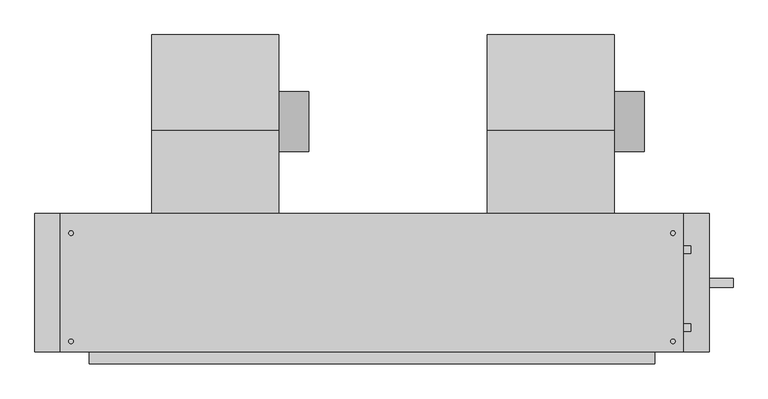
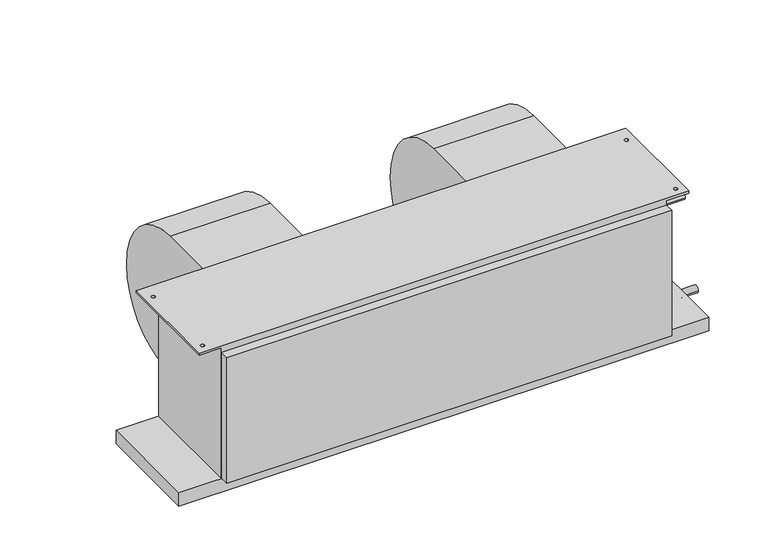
"""IFC4 building model written with IfcOpenShell, lengths in millimetres: proxy geometry, Concealed_High_Capacity_Horizontal_Fan_Coil_Unit_-_42DAA_-_CARRIER_-_2-Pipe_RH_2022 : Size 20 - 277v/60Hz/1Ph - 6 Row 14.0kW."""

import ifcopenshell
import ifcopenshell.guid

model = None  # the IFC model being written
_history = None  # IfcOwnerHistory: only IFC2X3 demands one
_inside = {}  # id of a spatial element -> (the spatial element, [elements in it])
_under = {}  # id of a project, library or spatial element -> (it, [spatial elements below it])
_declared = {}  # id of a project -> (the project, [libraries it declares])
_typed = {}  # id of a type object -> (the type object, [elements of that type])
_made_of = {}  # id of a material, layer set ... -> (it, [elements and type objects made of it])


def new_model(schema):
    """Start an empty IFC model of exactly this schema.

    Asked for "IFC4X3", IfcOpenShell would pick the latest addendum, in which some entities
    have other attributes; the version numbers below select the first issue.
    IFC2X3 requires an IfcOwnerHistory on every rooted entity: one is made here for all.
    """
    global model, _history
    if schema == "IFC4X3":
        model = ifcopenshell.file(schema_version=(4, 3, 0, 0))
    else:
        model = ifcopenshell.file(schema=schema)
    _inside.clear()
    _under.clear()
    _declared.clear()
    _typed.clear()
    _made_of.clear()
    _history = None
    if model.schema == "IFC2X3":
        org = make("IfcOrganization", Name="unknown")
        user = make(
            "IfcPersonAndOrganization",
            ThePerson=make("IfcPerson", FamilyName="unknown"),
            TheOrganization=org,
        )
        app = make(
            "IfcApplication",
            ApplicationDeveloper=org,
            Version="unknown",
            ApplicationFullName="unknown",
            ApplicationIdentifier="unknown",
        )
        _history = make(
            "IfcOwnerHistory",
            OwningUser=user,
            OwningApplication=app,
            ChangeAction="ADDED",
            CreationDate=0,
        )
    return model


def make(cls, **values):
    """One entity of the class cls with the attributes given. An attribute that is None is left unset."""
    return model.create_entity(
        cls, **{name: value for name, value in values.items() if value is not None}
    )


def rooted(cls, **values):
    """An entity with a GlobalId (a new one), such as an element, a storey or a relation."""
    return make(cls, GlobalId=ifcopenshell.guid.new(), OwnerHistory=_history, **values)


def si_unit(unit_type, name, prefix=None):
    """IfcSIUnit, for example si_unit("LENGTHUNIT", "METRE", prefix="MILLI")."""
    return make("IfcSIUnit", UnitType=unit_type, Prefix=prefix, Name=name)


def assignment(units):
    """IfcUnitAssignment: the units of a project."""
    return None if units is None else make("IfcUnitAssignment", Units=units)


def point(xyz):
    """IfcCartesianPoint."""
    return None if xyz is None else make("IfcCartesianPoint", Coordinates=xyz)


def direction(xyz):
    """IfcDirection."""
    return None if xyz is None else make("IfcDirection", DirectionRatios=xyz)


def frame(location, z_axis=None, x_axis=None):
    """IfcAxis2Placement3D, a coordinate frame: its origin and axes. An axis left out is left unset."""
    return make(
        "IfcAxis2Placement3D",
        Location=point(location),
        Axis=direction(z_axis),
        RefDirection=direction(x_axis),
    )


def frame_2d(location, x_axis=None):
    """IfcAxis2Placement2D, a coordinate frame in the plane: its origin and x axis."""
    return make(
        "IfcAxis2Placement2D", Location=point(location), RefDirection=direction(x_axis)
    )


def origin():
    """The frame at (0, 0, 0) with its axes left unset."""
    return frame((0.0, 0.0, 0.0))


def place(relative_to, where):
    """IfcLocalPlacement: puts the frame where relative to a parent placement (None: the world)."""
    return make(
        "IfcLocalPlacement", PlacementRelTo=relative_to, RelativePlacement=where
    )


def context(
    kind, dimensions, precision=None, world=None, true_north=None, identifier=None
):
    """IfcGeometricRepresentationContext, for example the 3D "Model" context."""
    return make(
        "IfcGeometricRepresentationContext",
        ContextIdentifier=identifier,
        ContextType=kind,
        CoordinateSpaceDimension=dimensions,
        Precision=precision,
        WorldCoordinateSystem=world,
        TrueNorth=true_north,
    )


def project(units=None, contexts=None):
    """IfcProject with its units and contexts."""
    return rooted(
        "IfcProject",
        Name="project",
        RepresentationContexts=contexts,
        UnitsInContext=assignment(units),
    )


def spatial(cls, under=None, at=None, **own):
    """A site, building, storey or space (cls), placed at a placement, below another one or the project."""
    s = rooted(cls, ObjectPlacement=at, **own)
    if under is not None:
        _under.setdefault(under.id(), (under, []))[1].append(s)
    return s


def polyline(points):
    """IfcPolyline through the points."""
    return make("IfcPolyline", Points=[point(p) for p in points])


def circle_curve(where, radius):
    """IfcCircle in the frame where."""
    return make("IfcCircle", Position=where, Radius=radius)


def trimmed(basis, trim1, trim2, sense, master):
    """IfcTrimmedCurve: the piece of a basis curve between two trims."""
    return make(
        "IfcTrimmedCurve",
        BasisCurve=basis,
        Trim1=trim1,
        Trim2=trim2,
        SenseAgreement=sense,
        MasterRepresentation=master,
    )


def segment(curve, same_sense, transition):
    """IfcCompositeCurveSegment."""
    return make(
        "IfcCompositeCurveSegment",
        Transition=transition,
        SameSense=same_sense,
        ParentCurve=curve,
    )


def composite_curve(segments, self_intersect=None):
    """IfcCompositeCurve: segments joined end to end."""
    return make("IfcCompositeCurve", Segments=segments, SelfIntersect=self_intersect)


def outline(outer, holes=None, kind="AREA"):
    """IfcArbitraryClosedProfileDef: a profile drawn as a closed curve; with holes, ...WithVoids."""
    if holes is None:
        return make("IfcArbitraryClosedProfileDef", ProfileType=kind, OuterCurve=outer)
    return make(
        "IfcArbitraryProfileDefWithVoids",
        ProfileType=kind,
        OuterCurve=outer,
        InnerCurves=holes,
    )


def extrude(swept, where, along, depth):
    """IfcExtrudedAreaSolid: the profile swept, set in the frame where, extruded along a direction by depth."""
    return make(
        "IfcExtrudedAreaSolid",
        SweptArea=swept,
        Position=where,
        ExtrudedDirection=direction(along),
        Depth=depth,
    )


def shape(context_of_items, identifier, shape_type, items):
    """IfcShapeRepresentation: the items that make up one representation, for example the "Body"."""
    return make(
        "IfcShapeRepresentation",
        ContextOfItems=context_of_items,
        RepresentationIdentifier=identifier,
        RepresentationType=shape_type,
        Items=items,
    )


def source(mapping_origin, context_of_items, identifier, shape_type, items):
    """IfcRepresentationMap: a shape defined once, which mapped items show again and again."""
    return make(
        "IfcRepresentationMap",
        MappingOrigin=mapping_origin,
        MappedRepresentation=shape(context_of_items, identifier, shape_type, items),
    )


def transform(
    local_origin,
    x_axis=None,
    y_axis=None,
    z_axis=None,
    scale=None,
    scale2=None,
    scale3=None,
    uniform=True,
):
    """IfcCartesianTransformationOperator3D, or its non-uniform kind. x_axis, y_axis, z_axis: its Axis1, 2, 3."""
    if uniform:
        return make(
            "IfcCartesianTransformationOperator3D",
            Axis1=direction(x_axis),
            Axis2=direction(y_axis),
            LocalOrigin=point(local_origin),
            Scale=scale,
            Axis3=direction(z_axis),
        )
    return make(
        "IfcCartesianTransformationOperator3DnonUniform",
        Axis1=direction(x_axis),
        Axis2=direction(y_axis),
        LocalOrigin=point(local_origin),
        Scale=scale,
        Axis3=direction(z_axis),
        Scale2=scale2,
        Scale3=scale3,
    )


def mapped(mapping_source, mapping_target):
    """IfcMappedItem: shows the shape of a source again, moved by a transform."""
    return make(
        "IfcMappedItem", MappingSource=mapping_source, MappingTarget=mapping_target
    )


def made_of(thing, what):
    """Note that an element or type object is made of a material, layer set ...; save() writes the relation."""
    if what is not None:
        _made_of.setdefault(what.id(), (what, []))[1].append(thing)
    return thing


def element(
    cls,
    number,
    at=None,
    inside=None,
    cuts=None,
    type_object=None,
    material=None,
    context=None,
    identifier="Body",
    shape_type=None,
    held_by="IfcProductDefinitionShape",
    body=None,
    shapes=None,
    **own,
):
    """One element of the class cls, such as IfcWall. Its Tag is "e" and its number.

    at: its placement. inside: the storey or other place that contains it. cuts: it is an
    opening in that element (IfcRelVoidsElement). A single representation is given by context,
    identifier, shape_type and body (its items); several are given by shapes. held_by: the class
    of the entity that holds the representations. save() writes the other relations.
    """
    e = rooted(cls, Tag="e%d" % number, ObjectPlacement=at, **own)
    if body is not None:
        shapes = [shape(context, identifier, shape_type, body)]
    if shapes is not None:
        e.Representation = make(held_by, Representations=shapes)
    if inside is not None:
        _inside.setdefault(inside.id(), (inside, []))[1].append(e)
    if cuts is not None:
        rooted(
            "IfcRelVoidsElement", RelatingBuildingElement=cuts, RelatedOpeningElement=e
        )
    if type_object is not None:
        _typed.setdefault(type_object.id(), (type_object, []))[1].append(e)
    return made_of(e, material)


def aggregate(whole, parts):
    """IfcRelAggregates: a whole, such as a stair, and the parts it consists of."""
    return rooted("IfcRelAggregates", RelatingObject=whole, RelatedObjects=parts)


def save(model, path):
    """Write the relations noted so far, then the file.

    IfcRelAggregates (storeys below a building ...), IfcRelContainedInSpatialStructure (elements
    in a storey), IfcRelDefinesByType, IfcRelAssociatesMaterial and IfcRelDeclares: one each for
    every whole, place, type object, material and project.
    """
    for whole, parts in _under.values():
        aggregate(whole, parts)
    for where, things in _inside.values():
        rooted(
            "IfcRelContainedInSpatialStructure",
            RelatedElements=things,
            RelatingStructure=where,
        )
    for kind, things in _typed.values():
        rooted("IfcRelDefinesByType", RelatedObjects=things, RelatingType=kind)
    for what, things in _made_of.values():
        rooted("IfcRelAssociatesMaterial", RelatedObjects=things, RelatingMaterial=what)
    for by, libraries in _declared.values():
        rooted("IfcRelDeclares", RelatingContext=by, RelatedDefinitions=libraries)
    model.write(path)


def plane_surface(at):
    """IfcPlane: the flat surface through the origin of the frame at, square to its z axis."""
    return make("IfcPlane", Position=at)


def cylinder_surface(at, radius):
    """IfcCylindricalSurface: all points at the distance radius from the z axis of the frame at."""
    return make("IfcCylindricalSurface", Position=at, Radius=radius)


def revolved_surface(curve, axis_point, axis_direction):
    """IfcSurfaceOfRevolution: the curve turned about the line through axis_point along axis_direction."""
    return make(
        "IfcSurfaceOfRevolution",
        SweptCurve=make("IfcArbitraryOpenProfileDef", ProfileType="CURVE", Curve=curve),
        AxisPosition=make("IfcAxis1Placement", Location=point(axis_point), Axis=direction(axis_direction)),
    )


def advanced_brep(points, edges, surfaces, faces):
    """IfcAdvancedBrep: a solid bounded by faces that lie on surfaces and meet in shared edges.

    An edge is (start, end): straight between two places in points (the first is 0);
    or (start, end, curve); or (start, end, curve, False) where it runs against its curve.
    A face is (place in surfaces, loops), or (place, loops, False) where it looks against
    its surface's normal. A loop lists edges by number (the first is 1), with a minus sign
    where the edge is run from its end to its start. The first loop is the outer one.
    """
    corners = [point(p) for p in points]
    vertices = [make("IfcVertexPoint", VertexGeometry=c) for c in corners]
    made = []
    for start, end, *more in edges:
        made.append(
            make(
                "IfcEdgeCurve",
                EdgeStart=vertices[start],
                EdgeEnd=vertices[end],
                EdgeGeometry=more[0] if more else make("IfcPolyline", Points=[corners[start], corners[end]]),
                SameSense=more[1] if len(more) > 1 else True,
            )
        )
    hull = []
    for where, loops, *sense in faces:
        bounds = []
        for j, loop in enumerate(loops):
            ring = [make("IfcOrientedEdge", EdgeElement=made[abs(k) - 1], Orientation=k > 0) for k in loop]
            bounds.append(
                make(
                    "IfcFaceOuterBound" if j == 0 else "IfcFaceBound",
                    Bound=make("IfcEdgeLoop", EdgeList=ring),
                    Orientation=True,
                )
            )
        hull.append(make("IfcAdvancedFace", Bounds=bounds, FaceSurface=surfaces[where], SameSense=sense[0] if sense else True))
    return make("IfcAdvancedBrep", Outer=make("IfcClosedShell", CfsFaces=hull))


def mechanical_equipment_e2659b0b(model_context):
    return source(origin(), model_context, "Body", "SolidModel", [
        extrude(outline(composite_curve([segment(trimmed(circle_curve(frame_2d((102.0007598, -206.8897468)), 63.5), [point((165.5007598, -206.8897468))], [point((38.5007598, -206.8897468))], False, "CARTESIAN"), True, "CONTINUOUS"), segment(trimmed(circle_curve(frame_2d((102.0007598, -206.8897468)), 63.5), [point((38.5007598, -206.8897468))], [point((165.5007598, -206.8897468))], False, "CARTESIAN"), True, "CONTINUOUS")], self_intersect=False)), frame((-44.45, 0.0, 0.0), z_axis=(1.0, 0.0, 0.0), x_axis=(0.0, 1.0, 0.0)), (0.0, 0.0, 1.0), 63.5),
        advanced_brep(
        [(-312.674, 285.5155957, -222.029602), (-312.674, 104.6226, -403.64664), (-312.674, -50.9016, -277.10638), (-312.674, -92.075, -277.10638), (-312.674, -92.075, -19.05), (-312.674, 83.0080093, -19.05), (-44.45, 285.5155957, -222.029602), (-44.45, 83.0080093, -19.05), (-44.45, -92.075, -19.05), (-44.45, -92.075, -277.10638), (-44.45, -50.9016, -277.10638), (-44.45, 104.622599, -403.6457839)],
        [
            (0, 1, circle_curve(frame((-312.674, 104.44226, -222.57258), z_axis=(-1.0, 0.0, 0.0), x_axis=(0.0, -1.0, 0.0)), 181.0741498)),
            (1, 2, circle_curve(frame((-312.674, 104.44226, -245.02364), z_axis=(-1.0, 0.0, 0.0), x_axis=(0.0, -1.0, 0.0)), 158.6222464)),
            (2, 3),
            (3, 4),
            (4, 5),
            (5, 0, circle_curve(frame((-312.674, 81.9912, -222.57258), z_axis=(-1.0, 0.0, 0.0), x_axis=(0.0, -1.0, 0.0)), 203.52512)),
            (6, 7, circle_curve(frame((-44.45, 81.9912, -222.57258), z_axis=(1.0, 0.0, 0.0), x_axis=(0.0, -1.0, 0.0)), 203.52512)),
            (7, 8),
            (8, 9),
            (9, 10),
            (10, 11, circle_curve(frame((-44.45, 104.44226, -245.02364), z_axis=(1.0, 0.0, 0.0), x_axis=(0.0, -1.0, 0.0)), 158.6222464)),
            (11, 6, circle_curve(frame((-44.45, 104.44226, -222.57258), z_axis=(1.0, 0.0, 0.0), x_axis=(0.0, -1.0, 0.0)), 181.0741498)),
            (0, 6),
            (11, 1),
            (10, 2),
            (9, 3),
            (8, 4),
            (7, 5),
        ],
        [
            plane_surface(frame((-312.674, -76.6318898, -222.57258), z_axis=(-1.0, 0.0, 0.0), x_axis=(0.0, 0.0, 1.0))),
            plane_surface(frame((-44.45, -76.6318898, -222.57258), z_axis=(1.0, 0.0, 0.0), x_axis=(0.0, 0.0, -1.0))),
            cylinder_surface(frame((-44.45, 104.44226, -222.57258), z_axis=(-1.0, 0.0, 0.0), x_axis=(0.0, -1.0, 0.0)), 181.0741498),
            cylinder_surface(frame((-44.45, 104.44226, -245.02364), z_axis=(-1.0, 0.0, 0.0), x_axis=(0.0, -1.0, 0.0)), 158.6222464),
            plane_surface(frame((-312.674, -50.9016, -277.10638), z_axis=(0.0, 0.0, -1.0), x_axis=(1.0, 0.0, 0.0))),
            plane_surface(frame((-312.674, -92.075, -277.10638), z_axis=(0.0, -1.0, 0.0), x_axis=(1.0, 0.0, 0.0))),
            plane_surface(frame((-312.674, -92.075, -19.05), z_axis=(0.0, 0.0, 1.0), x_axis=(1.0, 0.0, 0.0))),
            cylinder_surface(frame((-44.45, 81.9912, -222.57258), z_axis=(-1.0, 0.0, 0.0), x_axis=(0.0, -1.0, 0.0)), 203.52512),
        ],
        [
            (0, [[1, 2, 3, 4, 5, 6]]),
            (1, [[7, 8, 9, 10, 11, 12]]),
            (2, [[-1, 13, -12, 14]]),
            (3, [[-2, -14, -11, 15]]),
            (4, [[-3, -15, -10, 16]]),
            (5, [[-4, -16, -9, 17]]),
            (6, [[-5, -17, -8, 18]]),
            (7, [[-6, -18, -7, -13]]),
        ],
    ),
        extrude(outline(composite_curve([segment(trimmed(circle_curve(frame_2d((102.0007598, -206.8897468)), 63.5), [point((165.5007598, -206.8897468))], [point((38.5007598, -206.8897468))], False, "CARTESIAN"), True, "CONTINUOUS"), segment(trimmed(circle_curve(frame_2d((102.0007598, -206.8897468)), 63.5), [point((38.5007598, -206.8897468))], [point((165.5007598, -206.8897468))], False, "CARTESIAN"), True, "CONTINUOUS")], self_intersect=False)), frame((663.575, 0.0, 0.0), z_axis=(1.0, 0.0, 0.0), x_axis=(0.0, 1.0, 0.0)), (0.0, 0.0, 1.0), 63.5),
        advanced_brep(
        [(395.351, 285.5155957, -222.029602), (395.351, 104.6226, -403.64664), (395.351, -50.9016, -277.10638), (395.351, -92.075, -277.10638), (395.351, -92.075, -19.05), (395.351, 83.0080093, -19.05), (663.575, 285.5155957, -222.029602), (663.575, 83.0080093, -19.05), (663.575, -92.075, -19.05), (663.575, -92.075, -277.10638), (663.575, -50.9016, -277.10638), (663.575, 104.622599, -403.6457839)],
        [
            (0, 1, circle_curve(frame((395.351, 104.44226, -222.57258), z_axis=(-1.0, 0.0, 0.0), x_axis=(0.0, -1.0, 0.0)), 181.0741498)),
            (1, 2, circle_curve(frame((395.351, 104.44226, -245.02364), z_axis=(-1.0, 0.0, 0.0), x_axis=(0.0, -1.0, 0.0)), 158.6222464)),
            (2, 3),
            (3, 4),
            (4, 5),
            (5, 0, circle_curve(frame((395.351, 81.9912, -222.57258), z_axis=(-1.0, 0.0, 0.0), x_axis=(0.0, -1.0, 0.0)), 203.52512)),
            (6, 7, circle_curve(frame((663.575, 81.9912, -222.57258), z_axis=(1.0, 0.0, 0.0), x_axis=(0.0, -1.0, 0.0)), 203.52512)),
            (7, 8),
            (8, 9),
            (9, 10),
            (10, 11, circle_curve(frame((663.575, 104.44226, -245.02364), z_axis=(1.0, 0.0, 0.0), x_axis=(0.0, -1.0, 0.0)), 158.6222464)),
            (11, 6, circle_curve(frame((663.575, 104.44226, -222.57258), z_axis=(1.0, 0.0, 0.0), x_axis=(0.0, -1.0, 0.0)), 181.0741498)),
            (0, 6),
            (11, 1),
            (10, 2),
            (9, 3),
            (8, 4),
            (7, 5),
        ],
        [
            plane_surface(frame((395.351, -76.6318898, -222.57258), z_axis=(-1.0, 0.0, 0.0), x_axis=(0.0, 0.0, 1.0))),
            plane_surface(frame((663.575, -76.6318898, -222.57258), z_axis=(1.0, 0.0, 0.0), x_axis=(0.0, 0.0, -1.0))),
            cylinder_surface(frame((663.575, 104.44226, -222.57258), z_axis=(-1.0, 0.0, 0.0), x_axis=(0.0, -1.0, 0.0)), 181.0741498),
            cylinder_surface(frame((663.575, 104.44226, -245.02364), z_axis=(-1.0, 0.0, 0.0), x_axis=(0.0, -1.0, 0.0)), 158.6222464),
            plane_surface(frame((395.351, -50.9016, -277.10638), z_axis=(0.0, 0.0, -1.0), x_axis=(1.0, 0.0, 0.0))),
            plane_surface(frame((395.351, -92.075, -277.10638), z_axis=(0.0, -1.0, 0.0), x_axis=(1.0, 0.0, 0.0))),
            plane_surface(frame((395.351, -92.075, -19.05), z_axis=(0.0, 0.0, 1.0), x_axis=(1.0, 0.0, 0.0))),
            cylinder_surface(frame((663.575, 81.9912, -222.57258), z_axis=(-1.0, 0.0, 0.0), x_axis=(0.0, -1.0, 0.0)), 203.52512),
        ],
        [
            (0, [[1, 2, 3, 4, 5, 6]]),
            (1, [[7, 8, 9, 10, 11, 12]]),
            (2, [[-1, 13, -12, 14]]),
            (3, [[-2, -14, -11, 15]]),
            (4, [[-3, -15, -10, 16]]),
            (5, [[-4, -16, -9, 17]]),
            (6, [[-5, -17, -8, 18]]),
            (7, [[-6, -18, -7, -13]]),
        ],
    ),
        advanced_brep(
        [(809.625, -92.075, -6.35), (809.625, -384.175, -6.35), (749.3, -384.175, -6.35), (749.3, -92.075, -6.35), (782.6375, -133.35, -6.35), (792.1625, -133.35, -6.35), (782.6375, -361.95, -6.35), (792.1625, -361.95, -6.35), (-504.825, -92.075, -6.35), (-444.5, -92.075, -6.35), (-444.5, -384.175, -6.35), (-504.825, -384.175, -6.35), (-487.3625, -133.35, -6.35), (-477.8375, -133.35, -6.35), (-487.3625, -361.95, -6.35), (-477.8375, -361.95, -6.35), (809.625, -384.175, 0.0), (809.625, -92.075, 0.0), (-504.825, -92.075, 0.0), (-504.825, -384.175, 0.0), (-477.8375, -133.35, 0.0), (-487.3625, -133.35, 0.0), (-477.8375, -361.95, 0.0), (-487.3625, -361.95, 0.0), (792.1625, -133.35, 0.0), (782.6375, -133.35, 0.0), (792.1625, -361.95, 0.0), (782.6375, -361.95, 0.0), (749.3, -92.075, -377.825), (-444.5, -92.075, -377.825), (-444.5, -384.175, -377.825), (749.3, -384.175, -377.825)],
        [
            (0, 1),
            (1, 2),
            (2, 3),
            (3, 0),
            (4, 5, circle_curve(frame((787.4, -133.35, -6.35), z_axis=(0.0, 0.0, 1.0), x_axis=(1.0, 0.0, 0.0)), 4.7625)),
            (5, 4, circle_curve(frame((787.4, -133.35, -6.35), z_axis=(0.0, 0.0, 1.0), x_axis=(1.0, 0.0, 0.0)), 4.7625)),
            (6, 7, circle_curve(frame((787.4, -361.95, -6.35), z_axis=(0.0, 0.0, 1.0), x_axis=(1.0, 0.0, 0.0)), 4.7625)),
            (7, 6, circle_curve(frame((787.4, -361.95, -6.35), z_axis=(0.0, 0.0, 1.0), x_axis=(1.0, 0.0, 0.0)), 4.7625)),
            (8, 9),
            (9, 10),
            (10, 11),
            (11, 8),
            (12, 13, circle_curve(frame((-482.6, -133.35, -6.35), z_axis=(0.0, 0.0, 1.0), x_axis=(1.0, 0.0, 0.0)), 4.7625)),
            (13, 12, circle_curve(frame((-482.6, -133.35, -6.35), z_axis=(0.0, 0.0, 1.0), x_axis=(1.0, 0.0, 0.0)), 4.7625)),
            (14, 15, circle_curve(frame((-482.6, -361.95, -6.35), z_axis=(0.0, 0.0, 1.0), x_axis=(1.0, 0.0, 0.0)), 4.7625)),
            (15, 14, circle_curve(frame((-482.6, -361.95, -6.35), z_axis=(0.0, 0.0, 1.0), x_axis=(1.0, 0.0, 0.0)), 4.7625)),
            (16, 17),
            (17, 18),
            (18, 19),
            (19, 16),
            (20, 21, circle_curve(frame((-482.6, -133.35, 0.0), z_axis=(0.0, 0.0, -1.0), x_axis=(1.0, 0.0, 0.0)), 4.7625)),
            (21, 20, circle_curve(frame((-482.6, -133.35, 0.0), z_axis=(0.0, 0.0, -1.0), x_axis=(1.0, 0.0, 0.0)), 4.7625)),
            (22, 23, circle_curve(frame((-482.6, -361.95, 0.0), z_axis=(0.0, 0.0, -1.0), x_axis=(1.0, 0.0, 0.0)), 4.7625)),
            (23, 22, circle_curve(frame((-482.6, -361.95, 0.0), z_axis=(0.0, 0.0, -1.0), x_axis=(1.0, 0.0, 0.0)), 4.7625)),
            (24, 25, circle_curve(frame((787.4, -133.35, 0.0), z_axis=(0.0, 0.0, -1.0), x_axis=(1.0, 0.0, 0.0)), 4.7625)),
            (25, 24, circle_curve(frame((787.4, -133.35, 0.0), z_axis=(0.0, 0.0, -1.0), x_axis=(1.0, 0.0, 0.0)), 4.7625)),
            (26, 27, circle_curve(frame((787.4, -361.95, 0.0), z_axis=(0.0, 0.0, -1.0), x_axis=(1.0, 0.0, 0.0)), 4.7625)),
            (27, 26, circle_curve(frame((787.4, -361.95, 0.0), z_axis=(0.0, 0.0, -1.0), x_axis=(1.0, 0.0, 0.0)), 4.7625)),
            (3, 28),
            (28, 29),
            (29, 9),
            (8, 18),
            (17, 0),
            (1, 16),
            (19, 11),
            (10, 30),
            (30, 31),
            (31, 2),
            (28, 31),
            (30, 29),
            (20, 13),
            (12, 21),
            (22, 15),
            (14, 23),
            (24, 5),
            (4, 25),
            (26, 7),
            (6, 27),
        ],
        [
            plane_surface(frame((749.3, -92.075, -6.35), z_axis=(0.0, 0.0, -1.0), x_axis=(1.0, 0.0, 0.0))),
            plane_surface(frame((749.3, -92.075, 0.0), z_axis=(0.0, 0.0, 1.0), x_axis=(-1.0, 0.0, 0.0))),
            plane_surface(frame((809.625, -92.075, 0.0), z_axis=(0.0, 1.0, 0.0), x_axis=(0.0, 0.0, -1.0))),
            plane_surface(frame((749.3, -384.175, 0.0), z_axis=(0.0, -1.0, 0.0), x_axis=(0.0, 0.0, -1.0))),
            plane_surface(frame((809.625, -384.175, 0.0), z_axis=(1.0, 0.0, 0.0), x_axis=(0.0, 0.0, -1.0))),
            plane_surface(frame((-504.825, -92.075, 0.0), z_axis=(-1.0, 0.0, 0.0), x_axis=(0.0, 0.0, -1.0))),
            plane_surface(frame((-444.5, -92.075, -377.825), z_axis=(0.0, 0.0, -1.0), x_axis=(1.0, 0.0, 0.0))),
            plane_surface(frame((-444.5, -92.075, 0.0), z_axis=(-1.0, 0.0, 0.0), x_axis=(0.0, 0.0, -1.0))),
            plane_surface(frame((749.3, -384.175, 0.0), z_axis=(1.0, 0.0, 0.0), x_axis=(0.0, 0.0, -1.0))),
            revolved_surface(polyline([(-477.83750000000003, -133.35, 0.0), (-477.83750000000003, -133.35, -6.35)]), (-482.6, -133.35, -6.35), (0.0, 0.0, 1.0)),
            revolved_surface(polyline([(-477.83750000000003, -361.95, 0.0), (-477.83750000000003, -361.95, -6.35)]), (-482.6, -361.95, 0.0), (0.0, 0.0, 1.0)),
            revolved_surface(polyline([(792.1625, -133.35, 0.0), (792.1625, -133.35, -6.35)]), (787.4, -133.35, 0.0), (0.0, 0.0, 1.0)),
            revolved_surface(polyline([(792.1625, -361.95, 0.0), (792.1625, -361.95, -6.35)]), (787.4, -361.95, 0.0), (0.0, 0.0, 1.0)),
        ],
        [
            (0, [[1, 2, 3, 4], [5, 6], [7, 8]]),
            (0, [[9, 10, 11, 12], [13, 14], [15, 16]]),
            (1, [[17, 18, 19, 20], [21, 22], [23, 24], [25, 26], [27, 28]]),
            (2, [[-4, 29, 30, 31, -9, 32, -18, 33]]),
            (3, [[-2, 34, -20, 35, -11, 36, 37, 38]]),
            (4, [[-1, -33, -17, -34]]),
            (5, [[-12, -35, -19, -32]]),
            (6, [[39, -37, 40, -30]]),
            (7, [[-40, -36, -10, -31]]),
            (8, [[-39, -29, -3, -38]]),
            (9, [[41, -13, 42, -21]]),
            (9, [[-41, -22, -42, -14]]),
            (10, [[43, -15, 44, -23]]),
            (10, [[-43, -24, -44, -16]]),
            (11, [[45, -5, 46, -25]]),
            (11, [[-45, -26, -46, -6]]),
            (12, [[47, -7, 48, -27]]),
            (12, [[-47, -28, -48, -8]]),
        ],
    ),
        extrude(outline(composite_curve([segment(trimmed(circle_curve(frame_2d((-238.125, -403.225)), 9.525), [point((-228.6, -403.225))], [point((-247.65, -403.225))], False, "CARTESIAN"), True, "CONTINUOUS"), segment(trimmed(circle_curve(frame_2d((-238.125, -403.225)), 9.525), [point((-247.65, -403.225))], [point((-228.6, -403.225))], False, "CARTESIAN"), True, "CONTINUOUS")], self_intersect=False)), frame((863.6, 0.0, 0.0), z_axis=(1.0, 0.0, 0.0), x_axis=(0.0, 1.0, 0.0)), (0.0, 0.0, 1.0), 50.8),
        extrude(outline(composite_curve([segment(trimmed(circle_curve(frame_2d((-333.375, -50.8)), 7.9375), [point((-325.4375, -50.8))], [point((-341.3125, -50.8))], False, "CARTESIAN"), True, "CONTINUOUS"), segment(trimmed(circle_curve(frame_2d((-333.375, -50.8)), 7.9375), [point((-341.3125, -50.8))], [point((-325.4375, -50.8))], False, "CARTESIAN"), True, "CONTINUOUS")], self_intersect=False)), frame((749.3, 0.0, 0.0), z_axis=(1.0, 0.0, 0.0), x_axis=(0.0, 1.0, 0.0)), (0.0, 0.0, 1.0), 76.2),
        extrude(outline(composite_curve([segment(trimmed(circle_curve(frame_2d((-168.275, -327.025)), 7.9375), [point((-160.3375, -327.025))], [point((-176.2125, -327.025))], False, "CARTESIAN"), True, "CONTINUOUS"), segment(trimmed(circle_curve(frame_2d((-168.275, -327.025)), 7.9375), [point((-176.2125, -327.025))], [point((-160.3375, -327.025))], False, "CARTESIAN"), True, "CONTINUOUS")], self_intersect=False)), frame((749.3, 0.0, 0.0), z_axis=(1.0, 0.0, 0.0), x_axis=(0.0, 1.0, 0.0)), (0.0, 0.0, 1.0), 76.2),
        extrude(outline(polyline([(749.3, -409.575), (-444.5, -409.575), (-444.5, -384.175), (749.3, -384.175), (749.3, -409.575)])), frame((0.0, 0.0, -374.65), z_axis=(0.0, 0.0, 1.0), x_axis=(1.0, 0.0, 0.0)), (0.0, 0.0, 1.0), 355.6),
        extrude(outline(polyline([(863.6, -92.075), (863.6, -384.175), (-558.8, -384.175), (-558.8, -92.075), (863.6, -92.075)])), frame((0.0, 0.0, -415.925), z_axis=(0.0, 0.0, 1.0), x_axis=(1.0, 0.0, 0.0)), (0.0, 0.0, 1.0), 38.1),
    ])


if __name__ == "__main__":
    model = new_model("IFC4")
    model_context = context("Model", 3, world=origin())
    ifc_project = project(units=[si_unit("LENGTHUNIT", "METRE", prefix="MILLI")], contexts=[model_context])
    site = spatial("IfcSite", under=ifc_project)
    building = spatial("IfcBuilding", under=site)
    placement = place(None, origin())
    mechanical_equipment_shape = mechanical_equipment_e2659b0b(model_context)
    element("IfcBuildingElementProxy", 1, Name="Concealed_High_Capacity_Horizontal_Fan_Coil_Unit_-_42DAA_-_CARRIER_-_2-Pipe_RH_2022 : Size 20 - 277v/60Hz/1Ph - 6 Row 14.0kW", ObjectType="Concealed_High_Capacity_Horizontal_Fan_Coil_Unit_-_42DAA_-_CARRIER_-_2-Pipe_RH_2022 : Size 20 - 277v/60Hz/1Ph - 6 Row 14.0kW", at=placement, inside=building, context=model_context, shape_type="MappedRepresentation", body=[
        mapped(mechanical_equipment_shape, transform((0.0, 0.0, 0.0), x_axis=(1.0, 0.0, 0.0), y_axis=(0.0, 1.0, 0.0), z_axis=(0.0, 0.0, 1.0))),
    ])
    save(model, "model.ifc")
